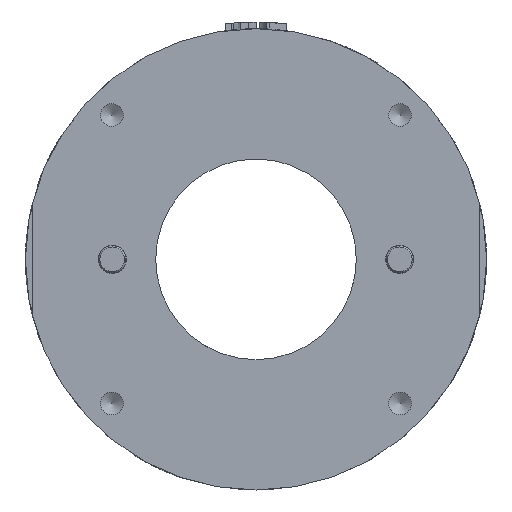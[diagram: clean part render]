
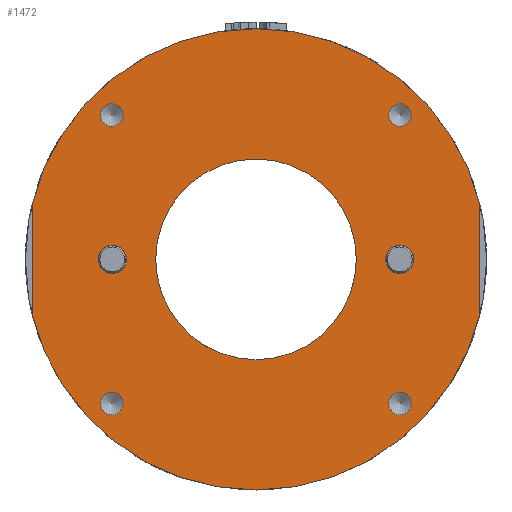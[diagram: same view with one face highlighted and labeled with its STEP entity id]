
A CAD part, left-side view. The second image highlights one B-rep face of the part: STEP entity #1472.
In plain terms, the highlighted planar face has unit normal (-1, 0, 0).
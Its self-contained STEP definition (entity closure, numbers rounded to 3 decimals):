
#377=LINE('',#22066,#578);
#381=LINE('',#22102,#582);
#578=VECTOR('',#8095,1.);
#582=VECTOR('',#8141,1.);
#1088=PLANE('',#6903);
#1472=ADVANCED_FACE('',(#1911,#1912,#1913,#1914,#1915,#1916,#1917,#1918),
#1088,.T.);
#1671=CIRCLE('',#6883,15.);
#1672=CIRCLE('',#6885,2.1);
#1673=CIRCLE('',#6887,1.7);
#1674=CIRCLE('',#6889,1.7);
#1675=CIRCLE('',#6891,1.7);
#1676=CIRCLE('',#6893,1.7);
#1678=CIRCLE('',#6896,34.5);
#1680=CIRCLE('',#6900,34.5);
#1681=CIRCLE('',#6902,2.1);
#1911=FACE_BOUND('',#2438,.T.);
#1912=FACE_BOUND('',#2439,.T.);
#1913=FACE_BOUND('',#2440,.T.);
#1914=FACE_BOUND('',#2441,.T.);
#1915=FACE_BOUND('',#2442,.T.);
#1916=FACE_BOUND('',#2443,.T.);
#1917=FACE_BOUND('',#2444,.T.);
#1918=FACE_BOUND('',#2445,.T.);
#2438=EDGE_LOOP('',(#4222));
#2439=EDGE_LOOP('',(#4223));
#2440=EDGE_LOOP('',(#4224));
#2441=EDGE_LOOP('',(#4225));
#2442=EDGE_LOOP('',(#4226));
#2443=EDGE_LOOP('',(#4227));
#2444=EDGE_LOOP('',(#4228));
#2445=EDGE_LOOP('',(#4229,#4230,#4231,#4232));
#4222=ORIENTED_EDGE('',*,*,#5776,.T.);
#4223=ORIENTED_EDGE('',*,*,#5775,.T.);
#4224=ORIENTED_EDGE('',*,*,#5774,.T.);
#4225=ORIENTED_EDGE('',*,*,#5773,.T.);
#4226=ORIENTED_EDGE('',*,*,#5772,.T.);
#4227=ORIENTED_EDGE('',*,*,#5784,.T.);
#4228=ORIENTED_EDGE('',*,*,#5771,.T.);
#4229=ORIENTED_EDGE('',*,*,#5785,.F.);
#4230=ORIENTED_EDGE('',*,*,#5779,.F.);
#4231=ORIENTED_EDGE('',*,*,#5770,.F.);
#4232=ORIENTED_EDGE('',*,*,#5783,.F.);
#4876=VERTEX_POINT('',#22060);
#4879=VERTEX_POINT('',#22065);
#4880=VERTEX_POINT('',#22069);
#4881=VERTEX_POINT('',#22072);
#4882=VERTEX_POINT('',#22075);
#4883=VERTEX_POINT('',#22078);
#4884=VERTEX_POINT('',#22081);
#4885=VERTEX_POINT('',#22084);
#4886=VERTEX_POINT('',#22087);
#4889=VERTEX_POINT('',#22097);
#4890=VERTEX_POINT('',#22101);
#5770=EDGE_CURVE('',#4879,#4876,#377,.T.);
#5771=EDGE_CURVE('',#4880,#4880,#1671,.T.);
#5772=EDGE_CURVE('',#4881,#4881,#1672,.T.);
#5773=EDGE_CURVE('',#4882,#4882,#1673,.T.);
#5774=EDGE_CURVE('',#4883,#4883,#1674,.T.);
#5775=EDGE_CURVE('',#4884,#4884,#1675,.T.);
#5776=EDGE_CURVE('',#4885,#4885,#1676,.T.);
#5779=EDGE_CURVE('',#4876,#4886,#1678,.T.);
#5783=EDGE_CURVE('',#4889,#4879,#1680,.T.);
#5784=EDGE_CURVE('',#4890,#4890,#1681,.T.);
#5785=EDGE_CURVE('',#4886,#4889,#381,.T.);
#6883=AXIS2_PLACEMENT_3D('',#22068,#8098,#8099);
#6885=AXIS2_PLACEMENT_3D('',#22071,#8102,#8103);
#6887=AXIS2_PLACEMENT_3D('',#22074,#8106,#8107);
#6889=AXIS2_PLACEMENT_3D('',#22077,#8110,#8111);
#6891=AXIS2_PLACEMENT_3D('',#22080,#8114,#8115);
#6893=AXIS2_PLACEMENT_3D('',#22083,#8118,#8119);
#6896=AXIS2_PLACEMENT_3D('',#22090,#8125,#8126);
#6900=AXIS2_PLACEMENT_3D('',#22098,#8135,#8136);
#6902=AXIS2_PLACEMENT_3D('',#22100,#8139,#8140);
#6903=AXIS2_PLACEMENT_3D('',#22103,#8142,#8143);
#8095=DIRECTION('',(0.,0.,1.));
#8098=DIRECTION('',(1.,0.,0.));
#8099=DIRECTION('',(0.,0.,-1.));
#8102=DIRECTION('',(1.,0.,0.));
#8103=DIRECTION('',(0.,0.,-1.));
#8106=DIRECTION('',(1.,0.,0.));
#8107=DIRECTION('',(0.,0.,-1.));
#8110=DIRECTION('',(1.,0.,0.));
#8111=DIRECTION('',(0.,0.,-1.));
#8114=DIRECTION('',(1.,0.,0.));
#8115=DIRECTION('',(0.,0.,-1.));
#8118=DIRECTION('',(1.,0.,0.));
#8119=DIRECTION('',(0.,0.,-1.));
#8125=DIRECTION('',(1.,0.,0.));
#8126=DIRECTION('',(0.,0.,-1.));
#8135=DIRECTION('',(1.,0.,0.));
#8136=DIRECTION('',(0.,0.,-1.));
#8139=DIRECTION('',(1.,0.,0.));
#8140=DIRECTION('',(0.,0.,-1.));
#8141=DIRECTION('',(0.,0.,-1.));
#8142=DIRECTION('',(-1.,0.,0.));
#8143=DIRECTION('',(0.,0.,1.));
#22060=CARTESIAN_POINT('',(0.,33.5,8.246));
#22065=CARTESIAN_POINT('',(0.,33.5,-8.246));
#22066=CARTESIAN_POINT('',(0.,33.5,0.));
#22068=CARTESIAN_POINT('',(0.,0.,0.));
#22069=CARTESIAN_POINT('',(0.,0.,-15.));
#22071=CARTESIAN_POINT('',(0.,21.5,0.));
#22072=CARTESIAN_POINT('',(0.,21.5,-2.1));
#22074=CARTESIAN_POINT('',(0.,21.567,-21.567));
#22075=CARTESIAN_POINT('',(0.,21.567,-23.267));
#22077=CARTESIAN_POINT('',(0.,-21.567,-21.567));
#22078=CARTESIAN_POINT('',(0.,-21.567,-23.267));
#22080=CARTESIAN_POINT('',(0.,-21.548,21.586));
#22081=CARTESIAN_POINT('',(0.,-21.548,19.886));
#22083=CARTESIAN_POINT('',(0.,21.567,21.567));
#22084=CARTESIAN_POINT('',(0.,21.567,19.867));
#22087=CARTESIAN_POINT('',(0.,-33.5,8.246));
#22090=CARTESIAN_POINT('',(0.,0.,0.));
#22097=CARTESIAN_POINT('',(0.,-33.5,-8.246));
#22098=CARTESIAN_POINT('',(0.,0.,0.));
#22100=CARTESIAN_POINT('',(0.,-21.5,0.));
#22101=CARTESIAN_POINT('',(0.,-21.5,-2.1));
#22102=CARTESIAN_POINT('',(0.,-33.5,0.));
#22103=CARTESIAN_POINT('',(0.,0.,0.));
